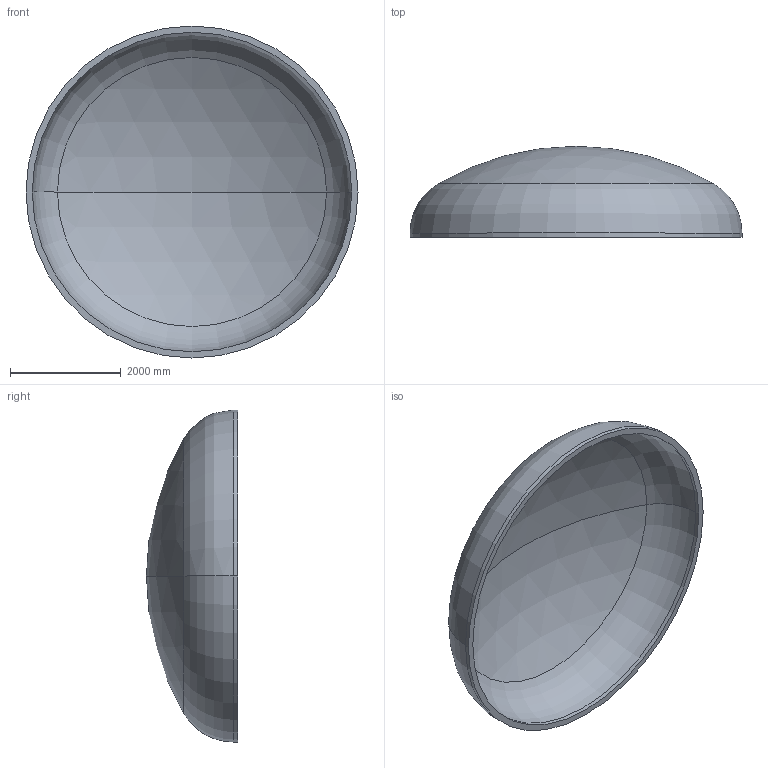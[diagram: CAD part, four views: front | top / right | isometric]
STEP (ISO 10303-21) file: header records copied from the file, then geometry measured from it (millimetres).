
FILE_DESCRIPTION (( 'STEP AP203' ), '1' );
FILE_NAME ('DIN 28013 Korbbogenform_-_Boden DIN 28013 - 6000 x 75 - I - s=112.step', '2016-07-04T10:39:12', ( '' ), ( '' ), 'SwSTEP 2.0', 'SolidWorks 2013', '' );
FILE_SCHEMA (( 'CONFIG_CONTROL_DESIGN' ));
Length unit declared in the file: millimetre
Products named in the file (1): DIN 28013 Korbbogenform_-_Boden DIN 28013 - 6000 x 75 - I - s=112
Bounding box: 6000 x 1646 x 6000 mm (x, y, z)
Volume: 4435603774.1 mm3; surface area: 81305195 mm2
Topology: 1 solids, 1 shells, 13 faces, 24 edges, 14 vertices
Faces by surface type: torus 4, cylinder 4, sphere 4, plane 1
Entity records: 407 total; most frequent: DIRECTION 72, CARTESIAN_POINT 52, ORIENTED_EDGE 48, AXIS2_PLACEMENT_3D 34, EDGE_CURVE 24, CIRCLE 20, EDGE_LOOP 14, VERTEX_POINT 14
